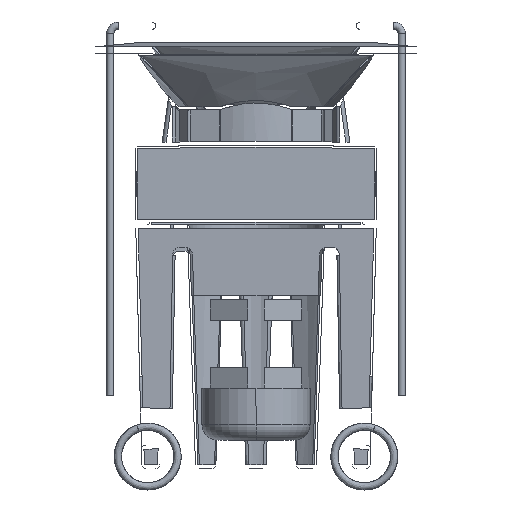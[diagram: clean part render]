
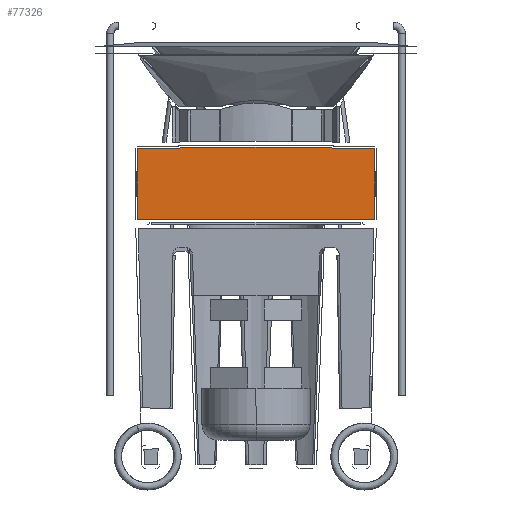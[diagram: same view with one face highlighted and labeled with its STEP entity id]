
A CAD part, left-side view. The second image highlights one B-rep face of the part: STEP entity #77326.
In plain terms, the highlighted planar face has unit normal (-1, 0, 0).
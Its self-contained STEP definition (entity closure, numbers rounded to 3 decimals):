
#77279=DIRECTION('',(0.,1.,0.));
#77280=VECTOR('',#77279,29.5);
#77281=CARTESIAN_POINT('',(-145.5,-14.75,3.95));
#77282=LINE('',#77281,#77280);
#77283=DIRECTION('',(0.,0.,1.));
#77284=VECTOR('',#77283,8.82);
#77285=CARTESIAN_POINT('',(-145.5,14.75,3.95));
#77286=LINE('',#77285,#77284);
#77287=DIRECTION('',(0.,-1.,0.012));
#77288=VECTOR('',#77287,14.751);
#77289=CARTESIAN_POINT('',(-145.5,14.75,12.77));
#77290=LINE('',#77289,#77288);
#77291=DIRECTION('',(0.,-1.,-0.012));
#77292=VECTOR('',#77291,14.751);
#77293=CARTESIAN_POINT('',(-145.5,0.,12.95));
#77294=LINE('',#77293,#77292);
#77295=DIRECTION('',(0.,0.,-1.));
#77296=VECTOR('',#77295,8.82);
#77297=CARTESIAN_POINT('',(-145.5,-14.75,12.77));
#77298=LINE('',#77297,#77296);
#77299=CARTESIAN_POINT('',(-145.5,-14.75,3.95));
#77300=CARTESIAN_POINT('',(-145.5,14.75,3.95));
#77301=VERTEX_POINT('',#77299);
#77302=VERTEX_POINT('',#77300);
#77303=CARTESIAN_POINT('',(-145.5,14.75,12.77));
#77304=VERTEX_POINT('',#77303);
#77305=CARTESIAN_POINT('',(-145.5,0.,12.95));
#77306=VERTEX_POINT('',#77305);
#77307=CARTESIAN_POINT('',(-145.5,-14.75,12.77));
#77308=VERTEX_POINT('',#77307);
#77309=CARTESIAN_POINT('',(-145.5,-15.,11.7));
#77310=DIRECTION('',(-1.,0.,0.));
#77311=DIRECTION('',(0.,1.,0.));
#77312=AXIS2_PLACEMENT_3D('',#77309,#77310,#77311);
#77313=PLANE('',#77312);
#77315=ORIENTED_EDGE('',*,*,#77314,.T.);
#77317=ORIENTED_EDGE('',*,*,#77316,.T.);
#77319=ORIENTED_EDGE('',*,*,#77318,.T.);
#77321=ORIENTED_EDGE('',*,*,#77320,.T.);
#77323=ORIENTED_EDGE('',*,*,#77322,.T.);
#77324=EDGE_LOOP('',(#77315,#77317,#77319,#77321,#77323));
#77325=FACE_OUTER_BOUND('',#77324,.F.);
#77326=ADVANCED_FACE('',(#77325),#77313,.T.);
#77314=EDGE_CURVE('',#77301,#77302,#77282,.T.);
#77316=EDGE_CURVE('',#77302,#77304,#77286,.T.);
#77318=EDGE_CURVE('',#77304,#77306,#77290,.T.);
#77320=EDGE_CURVE('',#77306,#77308,#77294,.T.);
#77322=EDGE_CURVE('',#77308,#77301,#77298,.T.);
